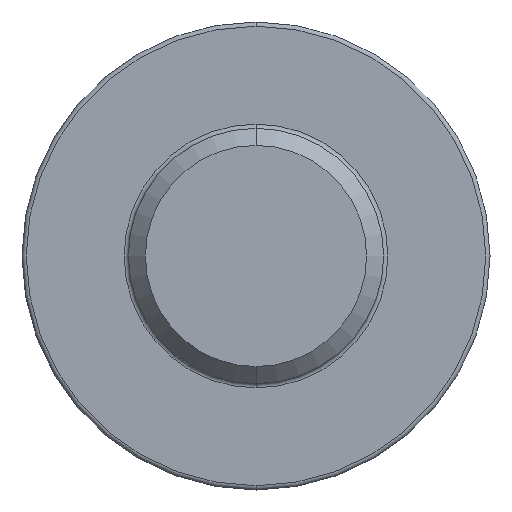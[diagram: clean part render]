
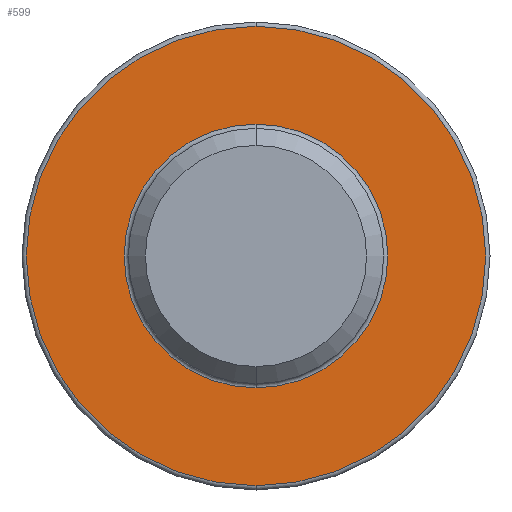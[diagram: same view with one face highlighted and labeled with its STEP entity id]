
A CAD part, front view. The second image highlights one B-rep face of the part: STEP entity #599.
In plain terms, the highlighted planar face has unit normal (0, -1, 0).
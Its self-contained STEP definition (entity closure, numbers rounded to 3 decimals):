
#1 = AXIS2_PLACEMENT_3D ( 'NONE', #90, #362, #629 ) ;
#29 = ORIENTED_EDGE ( 'NONE', *, *, #240, .T. ) ;
#49 = FACE_BOUND ( 'NONE', #840, .T. ) ;
#59 = CARTESIAN_POINT ( 'NONE',  ( 0., -1.6, -2.7 ) ) ;
#87 = EDGE_CURVE ( 'NONE', #533, #340, #115, .T. ) ;
#90 = CARTESIAN_POINT ( 'NONE',  ( 0., -1.6, 0. ) ) ;
#101 = CIRCLE ( 'NONE', #827, 1.55 ) ;
#103 = DIRECTION ( 'NONE',  ( 0., 0., 1. ) ) ;
#115 = CIRCLE ( 'NONE', #1, 1.55 ) ;
#132 = AXIS2_PLACEMENT_3D ( 'NONE', #593, #865, #103 ) ;
#152 = DIRECTION ( 'NONE',  ( 0., 0., 1. ) ) ;
#155 = ORIENTED_EDGE ( 'NONE', *, *, #291, .T. ) ;
#168 = CARTESIAN_POINT ( 'NONE',  ( 0., -1.6, 1.55 ) ) ;
#182 = DIRECTION ( 'NONE',  ( 0., 0., 1. ) ) ;
#205 = ORIENTED_EDGE ( 'NONE', *, *, #510, .T. ) ;
#218 = CARTESIAN_POINT ( 'NONE',  ( 0., -1.6, 0. ) ) ;
#240 = EDGE_CURVE ( 'NONE', #576, #734, #785, .T. ) ;
#291 = EDGE_CURVE ( 'NONE', #734, #576, #754, .T. ) ;
#323 = FACE_OUTER_BOUND ( 'NONE', #844, .T. ) ;
#324 = DIRECTION ( 'NONE',  ( 0., -1., 0. ) ) ;
#340 = VERTEX_POINT ( 'NONE', #736 ) ;
#362 = DIRECTION ( 'NONE',  ( 0., 1., 0. ) ) ;
#395 = PLANE ( 'NONE',  #132 ) ;
#510 = EDGE_CURVE ( 'NONE', #340, #533, #101, .T. ) ;
#533 = VERTEX_POINT ( 'NONE', #168 ) ;
#576 = VERTEX_POINT ( 'NONE', #851 ) ;
#593 = CARTESIAN_POINT ( 'NONE',  ( 1.5, -1.6, 0. ) ) ;
#599 = ADVANCED_FACE ( 'NONE', ( #49, #323 ), #395, .F. ) ;
#606 = CARTESIAN_POINT ( 'NONE',  ( 0., -1.6, 0. ) ) ;
#629 = DIRECTION ( 'NONE',  ( 0., 0., 1. ) ) ;
#646 = ORIENTED_EDGE ( 'NONE', *, *, #87, .T. ) ;
#656 = DIRECTION ( 'NONE',  ( 0., 0., 1. ) ) ;
#729 = DIRECTION ( 'NONE',  ( 0., -1., 0. ) ) ;
#734 = VERTEX_POINT ( 'NONE', #59 ) ;
#736 = CARTESIAN_POINT ( 'NONE',  ( 0., -1.6, -1.55 ) ) ;
#754 = CIRCLE ( 'NONE', #870, 2.7 ) ;
#762 = DIRECTION ( 'NONE',  ( 0., 1., 0. ) ) ;
#770 = AXIS2_PLACEMENT_3D ( 'NONE', #874, #324, #182 ) ;
#785 = CIRCLE ( 'NONE', #770, 2.7 ) ;
#827 = AXIS2_PLACEMENT_3D ( 'NONE', #218, #762, #152 ) ;
#840 = EDGE_LOOP ( 'NONE', ( #646, #205 ) ) ;
#844 = EDGE_LOOP ( 'NONE', ( #29, #155 ) ) ;
#851 = CARTESIAN_POINT ( 'NONE',  ( 0., -1.6, 2.7 ) ) ;
#865 = DIRECTION ( 'NONE',  ( 0., 1., 0. ) ) ;
#870 = AXIS2_PLACEMENT_3D ( 'NONE', #606, #729, #656 ) ;
#874 = CARTESIAN_POINT ( 'NONE',  ( 0., -1.6, 0. ) ) ;
